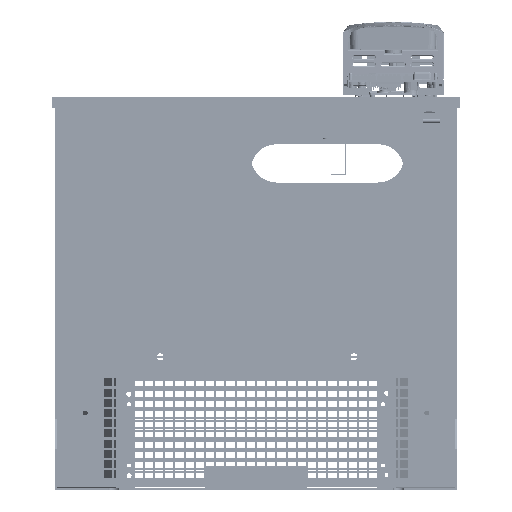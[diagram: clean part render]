
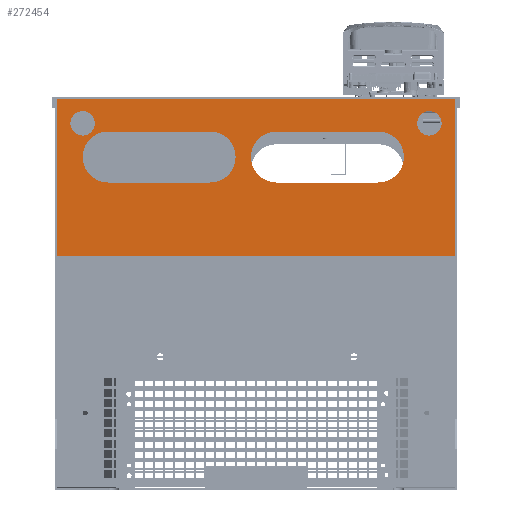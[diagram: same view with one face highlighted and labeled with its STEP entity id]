
A CAD part, front view. The second image highlights one B-rep face of the part: STEP entity #272454.
In plain terms, the highlighted planar face has unit normal (0, -1, 0).
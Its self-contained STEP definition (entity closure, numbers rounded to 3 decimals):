
#17651=FACE_BOUND('',#55634,.T.);
#17652=FACE_BOUND('',#55635,.T.);
#17653=FACE_BOUND('',#55636,.T.);
#17654=FACE_BOUND('',#55637,.T.);
#22091=CIRCLE('',#290064,25.);
#22092=CIRCLE('',#290065,25.);
#22093=CIRCLE('',#290066,25.);
#22094=CIRCLE('',#290067,25.);
#22095=CIRCLE('',#290068,12.);
#22096=CIRCLE('',#290069,12.);
#33275=FACE_OUTER_BOUND('',#55633,.T.);
#55633=EDGE_LOOP('',(#225601,#225602,#225603,#225604));
#55634=EDGE_LOOP('',(#225605,#225606,#225607,#225608));
#55635=EDGE_LOOP('',(#225609,#225610,#225611,#225612));
#55636=EDGE_LOOP('',(#225613));
#55637=EDGE_LOOP('',(#225614));
#80682=LINE('',#417506,#108623);
#80683=LINE('',#417508,#108624);
#80684=LINE('',#417510,#108625);
#80685=LINE('',#417511,#108626);
#80686=LINE('',#417516,#108627);
#80687=LINE('',#417519,#108628);
#80688=LINE('',#417524,#108629);
#80689=LINE('',#417527,#108630);
#108623=VECTOR('',#342221,154.);
#108624=VECTOR('',#342222,390.);
#108625=VECTOR('',#342223,154.);
#108626=VECTOR('',#342224,390.);
#108627=VECTOR('',#342227,100.);
#108628=VECTOR('',#342230,100.);
#108629=VECTOR('',#342233,100.);
#108630=VECTOR('',#342236,100.);
#134052=VERTEX_POINT('',#417504);
#134053=VERTEX_POINT('',#417505);
#134054=VERTEX_POINT('',#417507);
#134055=VERTEX_POINT('',#417509);
#134056=VERTEX_POINT('',#417512);
#134057=VERTEX_POINT('',#417513);
#134058=VERTEX_POINT('',#417515);
#134059=VERTEX_POINT('',#417517);
#134060=VERTEX_POINT('',#417520);
#134061=VERTEX_POINT('',#417521);
#134062=VERTEX_POINT('',#417523);
#134063=VERTEX_POINT('',#417525);
#134064=VERTEX_POINT('',#417528);
#134065=VERTEX_POINT('',#417530);
#165880=EDGE_CURVE('',#134052,#134053,#80682,.T.);
#165881=EDGE_CURVE('',#134054,#134052,#80683,.T.);
#165882=EDGE_CURVE('',#134055,#134054,#80684,.T.);
#165883=EDGE_CURVE('',#134053,#134055,#80685,.T.);
#165884=EDGE_CURVE('',#134056,#134057,#22091,.T.);
#165885=EDGE_CURVE('',#134058,#134056,#80686,.T.);
#165886=EDGE_CURVE('',#134059,#134058,#22092,.T.);
#165887=EDGE_CURVE('',#134057,#134059,#80687,.T.);
#165888=EDGE_CURVE('',#134060,#134061,#22093,.T.);
#165889=EDGE_CURVE('',#134062,#134060,#80688,.T.);
#165890=EDGE_CURVE('',#134063,#134062,#22094,.T.);
#165891=EDGE_CURVE('',#134061,#134063,#80689,.T.);
#165892=EDGE_CURVE('',#134064,#134064,#22095,.T.);
#165893=EDGE_CURVE('',#134065,#134065,#22096,.T.);
#225601=ORIENTED_EDGE('',*,*,#165880,.F.);
#225602=ORIENTED_EDGE('',*,*,#165881,.F.);
#225603=ORIENTED_EDGE('',*,*,#165882,.F.);
#225604=ORIENTED_EDGE('',*,*,#165883,.F.);
#225605=ORIENTED_EDGE('',*,*,#165884,.F.);
#225606=ORIENTED_EDGE('',*,*,#165885,.F.);
#225607=ORIENTED_EDGE('',*,*,#165886,.F.);
#225608=ORIENTED_EDGE('',*,*,#165887,.F.);
#225609=ORIENTED_EDGE('',*,*,#165888,.F.);
#225610=ORIENTED_EDGE('',*,*,#165889,.F.);
#225611=ORIENTED_EDGE('',*,*,#165890,.F.);
#225612=ORIENTED_EDGE('',*,*,#165891,.F.);
#225613=ORIENTED_EDGE('',*,*,#165892,.F.);
#225614=ORIENTED_EDGE('',*,*,#165893,.F.);
#261416=PLANE('',#290063);
#272454=ADVANCED_FACE('',(#33275,#17651,#17652,#17653,#17654),#261416,.F.);
#290063=AXIS2_PLACEMENT_3D('',#417503,#342219,#342220);
#290064=AXIS2_PLACEMENT_3D('',#417514,#342225,#342226);
#290065=AXIS2_PLACEMENT_3D('',#417518,#342228,#342229);
#290066=AXIS2_PLACEMENT_3D('',#417522,#342231,#342232);
#290067=AXIS2_PLACEMENT_3D('',#417526,#342234,#342235);
#290068=AXIS2_PLACEMENT_3D('',#417529,#342237,#342238);
#290069=AXIS2_PLACEMENT_3D('',#417531,#342239,#342240);
#342219=DIRECTION('center_axis',(0.,1.,0.));
#342220=DIRECTION('ref_axis',(1.,0.,0.));
#342221=DIRECTION('',(0.,0.,1.));
#342222=DIRECTION('',(-1.,0.,0.));
#342223=DIRECTION('',(0.,0.,-1.));
#342224=DIRECTION('',(1.,0.,0.));
#342225=DIRECTION('center_axis',(0.,-1.,0.));
#342226=DIRECTION('ref_axis',(0.,0.,-1.));
#342227=DIRECTION('',(1.,0.,0.));
#342228=DIRECTION('center_axis',(0.,-1.,0.));
#342229=DIRECTION('ref_axis',(0.,0.,1.));
#342230=DIRECTION('',(-1.,0.,0.));
#342231=DIRECTION('center_axis',(0.,-1.,0.));
#342232=DIRECTION('ref_axis',(0.,0.,-1.));
#342233=DIRECTION('',(1.,0.,0.));
#342234=DIRECTION('center_axis',(0.,-1.,0.));
#342235=DIRECTION('ref_axis',(0.,0.,1.));
#342236=DIRECTION('',(-1.,0.,0.));
#342237=DIRECTION('center_axis',(0.,-1.,0.));
#342238=DIRECTION('ref_axis',(-1.,0.,0.));
#342239=DIRECTION('center_axis',(0.,-1.,0.));
#342240=DIRECTION('ref_axis',(-1.,0.,0.));
#417503=CARTESIAN_POINT('Origin',(0.,0.,0.));
#417504=CARTESIAN_POINT('',(-195.,0.,-77.));
#417505=CARTESIAN_POINT('',(-195.,0.,77.));
#417506=CARTESIAN_POINT('',(-195.,0.,-77.));
#417507=CARTESIAN_POINT('',(195.,0.,-77.));
#417508=CARTESIAN_POINT('',(195.,0.,-77.));
#417509=CARTESIAN_POINT('',(195.,0.,77.));
#417510=CARTESIAN_POINT('',(195.,0.,77.));
#417511=CARTESIAN_POINT('',(-195.,0.,77.));
#417512=CARTESIAN_POINT('',(145.,0.,-45.));
#417513=CARTESIAN_POINT('',(145.,0.,5.));
#417514=CARTESIAN_POINT('Origin',(145.,0.,-20.));
#417515=CARTESIAN_POINT('',(45.,0.,-45.));
#417516=CARTESIAN_POINT('',(45.,0.,-45.));
#417517=CARTESIAN_POINT('',(45.,0.,5.));
#417518=CARTESIAN_POINT('Origin',(45.,0.,-20.));
#417519=CARTESIAN_POINT('',(145.,0.,5.));
#417520=CARTESIAN_POINT('',(-20.,0.,-45.));
#417521=CARTESIAN_POINT('',(-20.,0.,5.));
#417522=CARTESIAN_POINT('Origin',(-20.,0.,-20.));
#417523=CARTESIAN_POINT('',(-120.,0.,-45.));
#417524=CARTESIAN_POINT('',(-120.,0.,-45.));
#417525=CARTESIAN_POINT('',(-120.,0.,5.));
#417526=CARTESIAN_POINT('Origin',(-120.,0.,-20.));
#417527=CARTESIAN_POINT('',(-20.,0.,5.));
#417528=CARTESIAN_POINT('',(158.,0.,-53.));
#417529=CARTESIAN_POINT('Origin',(170.,0.,-53.));
#417530=CARTESIAN_POINT('',(-182.,0.,-53.));
#417531=CARTESIAN_POINT('Origin',(-170.,0.,-53.));
